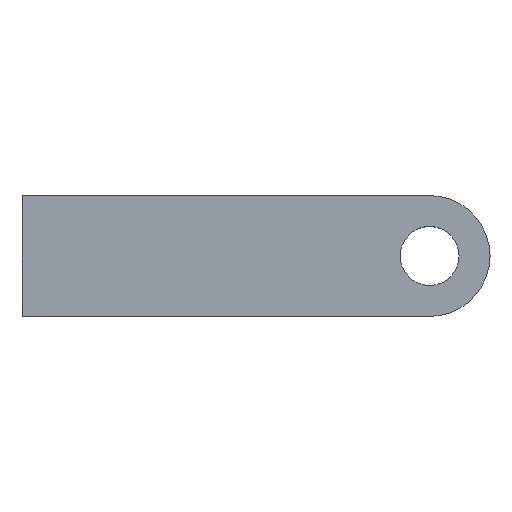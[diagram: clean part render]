
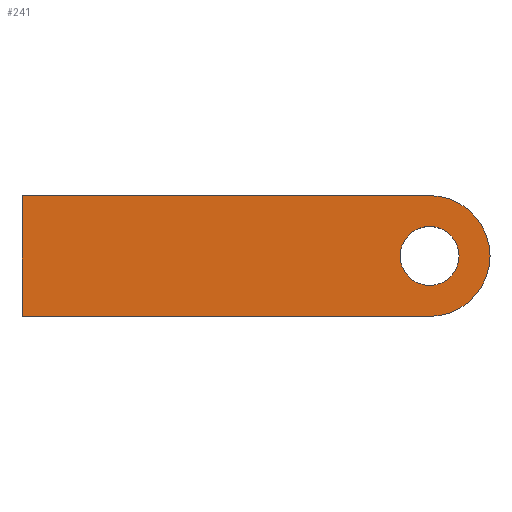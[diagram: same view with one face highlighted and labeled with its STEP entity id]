
A CAD part, top view. The second image highlights one B-rep face of the part: STEP entity #241.
In plain terms, the highlighted planar face has unit normal (0, 0, 1).
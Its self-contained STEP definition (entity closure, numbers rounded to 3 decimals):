
#9 = ORIENTED_EDGE ( 'NONE', *, *, #318, .T. ) ;
#11 = CARTESIAN_POINT ( 'NONE',  ( 57.75, 0., 0. ) ) ;
#16 = DIRECTION ( 'NONE',  ( 0., 0., 1. ) ) ;
#23 = DIRECTION ( 'NONE',  ( -1., 0., 0. ) ) ;
#28 = ORIENTED_EDGE ( 'NONE', *, *, #138, .T. ) ;
#31 = AXIS2_PLACEMENT_3D ( 'NONE', #202, #153, #23 ) ;
#37 = ORIENTED_EDGE ( 'NONE', *, *, #247, .T. ) ;
#38 = CARTESIAN_POINT ( 'NONE',  ( 77.25, 0., 0. ) ) ;
#40 = DIRECTION ( 'NONE',  ( 1., 0., 0. ) ) ;
#42 = DIRECTION ( 'NONE',  ( 0., -1., 0. ) ) ;
#43 = DIRECTION ( 'NONE',  ( 0., 0., 1. ) ) ;
#55 = ORIENTED_EDGE ( 'NONE', *, *, #106, .F. ) ;
#60 = VERTEX_POINT ( 'NONE', #11 ) ;
#66 = CARTESIAN_POINT ( 'NONE',  ( 67.5, -20., 0. ) ) ;
#73 = DIRECTION ( 'NONE',  ( 0., 0., -1. ) ) ;
#76 = DIRECTION ( 'NONE',  ( -1., 0., 0. ) ) ;
#80 = VERTEX_POINT ( 'NONE', #38 ) ;
#92 = CIRCLE ( 'NONE', #291, 9.75 ) ;
#98 = AXIS2_PLACEMENT_3D ( 'NONE', #254, #16, #334 ) ;
#103 = AXIS2_PLACEMENT_3D ( 'NONE', #167, #43, #40 ) ;
#105 = CARTESIAN_POINT ( 'NONE',  ( -67.5, 20., 0. ) ) ;
#106 = EDGE_CURVE ( 'NONE', #80, #60, #109, .T. ) ;
#109 = CIRCLE ( 'NONE', #103, 9.75 ) ;
#121 = EDGE_CURVE ( 'NONE', #324, #330, #165, .T. ) ;
#128 = FACE_OUTER_BOUND ( 'NONE', #139, .T. ) ;
#130 = LINE ( 'NONE', #314, #252 ) ;
#138 = EDGE_CURVE ( 'NONE', #161, #298, #238, .T. ) ;
#139 = EDGE_LOOP ( 'NONE', ( #37, #28, #9, #219, #236 ) ) ;
#142 = DIRECTION ( 'NONE',  ( 0., 0., 1. ) ) ;
#153 = DIRECTION ( 'NONE',  ( 0., 0., 1. ) ) ;
#161 = VERTEX_POINT ( 'NONE', #338 ) ;
#165 = LINE ( 'NONE', #283, #316 ) ;
#167 = CARTESIAN_POINT ( 'NONE',  ( 67.5, 0., 0. ) ) ;
#173 = EDGE_CURVE ( 'NONE', #60, #80, #92, .T. ) ;
#184 = ORIENTED_EDGE ( 'NONE', *, *, #173, .F. ) ;
#191 = CARTESIAN_POINT ( 'NONE',  ( 67.5, 0., 0. ) ) ;
#199 = CARTESIAN_POINT ( 'NONE',  ( -67.5, -20., 0. ) ) ;
#202 = CARTESIAN_POINT ( 'NONE',  ( 67.5, 0., 0. ) ) ;
#209 = VERTEX_POINT ( 'NONE', #66 ) ;
#219 = ORIENTED_EDGE ( 'NONE', *, *, #121, .T. ) ;
#229 = VECTOR ( 'NONE', #76, 1000. ) ;
#233 = DIRECTION ( 'NONE',  ( 1., 0., 0. ) ) ;
#236 = ORIENTED_EDGE ( 'NONE', *, *, #331, .T. ) ;
#238 = CIRCLE ( 'NONE', #98, 20. ) ;
#241 = ADVANCED_FACE ( 'NONE', ( #265, #128 ), #347, .F. ) ;
#247 = EDGE_CURVE ( 'NONE', #209, #161, #336, .T. ) ;
#252 = VECTOR ( 'NONE', #233, 1000. ) ;
#254 = CARTESIAN_POINT ( 'NONE',  ( 67.5, 0., 0. ) ) ;
#256 = DIRECTION ( 'NONE',  ( 1., 0., 0. ) ) ;
#257 = DIRECTION ( 'NONE',  ( -1., 0., 0. ) ) ;
#260 = AXIS2_PLACEMENT_3D ( 'NONE', #261, #73, #257 ) ;
#261 = CARTESIAN_POINT ( 'NONE',  ( 67.5, 0., 0. ) ) ;
#265 = FACE_BOUND ( 'NONE', #326, .T. ) ;
#283 = CARTESIAN_POINT ( 'NONE',  ( -67.5, 20., 0. ) ) ;
#289 = CARTESIAN_POINT ( 'NONE',  ( 67.5, 20., 0. ) ) ;
#291 = AXIS2_PLACEMENT_3D ( 'NONE', #191, #142, #256 ) ;
#294 = CARTESIAN_POINT ( 'NONE',  ( -67.5, 20., 0. ) ) ;
#298 = VERTEX_POINT ( 'NONE', #289 ) ;
#314 = CARTESIAN_POINT ( 'NONE',  ( -67.5, -20., 0. ) ) ;
#316 = VECTOR ( 'NONE', #42, 1000. ) ;
#317 = LINE ( 'NONE', #105, #229 ) ;
#318 = EDGE_CURVE ( 'NONE', #298, #324, #317, .T. ) ;
#324 = VERTEX_POINT ( 'NONE', #294 ) ;
#326 = EDGE_LOOP ( 'NONE', ( #55, #184 ) ) ;
#330 = VERTEX_POINT ( 'NONE', #199 ) ;
#331 = EDGE_CURVE ( 'NONE', #330, #209, #130, .T. ) ;
#334 = DIRECTION ( 'NONE',  ( -1., 0., 0. ) ) ;
#336 = CIRCLE ( 'NONE', #31, 20. ) ;
#338 = CARTESIAN_POINT ( 'NONE',  ( 87.5, 0., 0. ) ) ;
#347 = PLANE ( 'NONE',  #260 ) ;
